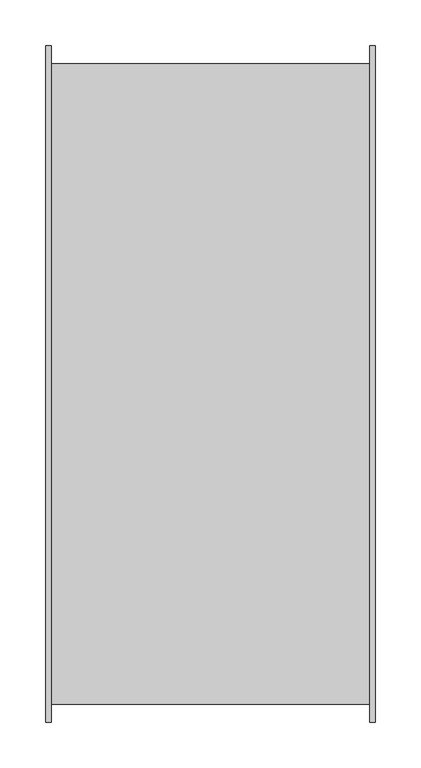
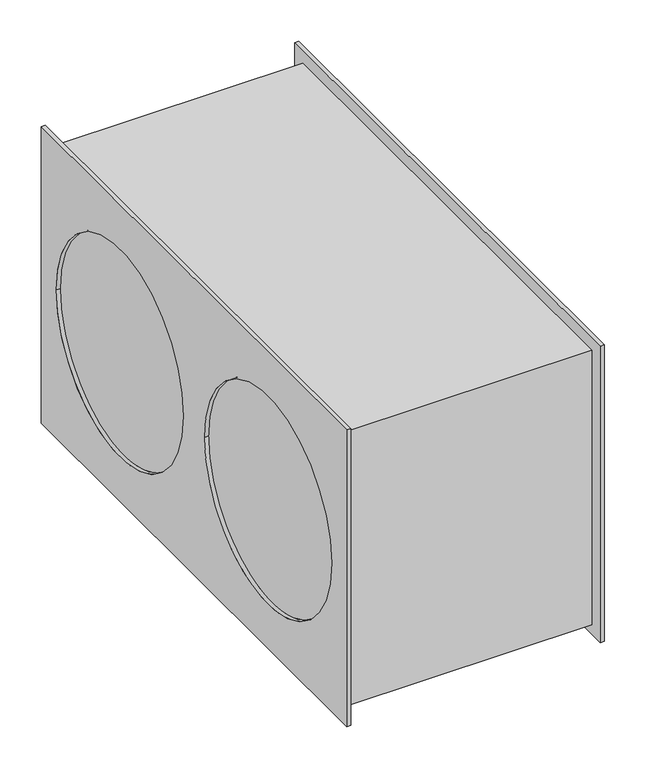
"""IFC4 building model written with IfcOpenShell, lengths in millimetres: unitary equipment geometry, VE-Wentylator-ParaForma-Harmann-JETTEC_REC_EC-Nawiewny : 070/40/5500EC."""

from ifc_helpers import new_model, si_unit, frame, origin, place, context, project, spatial, polyline, circle_curve, source, transform, mapped, element, save
from ifc_brep_helpers import plane_surface, revolved_surface, advanced_brep


def unitary_equipment_3b6452c3(model_context):
    return source(origin(), model_context, "Body", "AdvancedBrep", [
        advanced_brep(
        [(174.0, -369.3, -219.0), (174.0, -369.3, 219.0), (174.0, 369.3, 219.0), (174.0, 369.3, -219.0), (174.0, -349.8, 200.8), (174.0, -349.8, -204.2), (174.0, 349.8, -204.2), (174.0, 349.8, 200.8), (179.8, -369.3, -219.0), (179.8, 369.3, -219.0), (179.8, 369.3, 219.0), (179.8, -369.3, 219.0), (179.8, -332.8, 0.0), (179.8, -25.8, 0.0), (179.8, 25.8, 0.0), (179.8, 332.8, 0.0), (174.0, -25.8, 0.0), (174.0, -332.8, 0.0), (174.0, 332.8, 0.0), (174.0, 25.8, 0.0), (-174.0, -332.8, 0.0), (-174.0, -25.8, 0.0), (-174.0, 25.8, 0.0), (-174.0, 332.8, 0.0), (-174.0, -349.8, -204.2), (-174.0, -349.8, 200.8), (-174.0, 349.8, 200.8), (-174.0, 349.8, -204.2), (-179.8, -369.3, -219.0), (-179.8, -369.3, 219.0), (-179.8, 369.3, 219.0), (-179.8, 369.3, -219.0), (-179.8, -25.8, 0.0), (-179.8, -332.8, 0.0), (-179.8, 332.8, 0.0), (-179.8, 25.8, 0.0), (-174.0, -369.3, -219.0), (-174.0, 369.3, -219.0), (-174.0, 369.3, 219.0), (-174.0, -369.3, 219.0)],
        [
            (0, 1),
            (1, 2),
            (2, 3),
            (3, 0),
            (4, 5),
            (5, 6),
            (6, 7),
            (7, 4),
            (8, 9),
            (9, 10),
            (10, 11),
            (11, 8),
            (12, 13, circle_curve(frame((179.8, -179.3, 0.0), z_axis=(-1.0, 0.0, 0.0), x_axis=(0.0, 1.0, 0.0)), 153.5)),
            (13, 12, circle_curve(frame((179.8, -179.3, 0.0), z_axis=(-1.0, 0.0, 0.0), x_axis=(0.0, 1.0, 0.0)), 153.5)),
            (14, 15, circle_curve(frame((179.8, 179.3, 0.0), z_axis=(-1.0, 0.0, 0.0), x_axis=(0.0, 1.0, 0.0)), 153.5)),
            (15, 14, circle_curve(frame((179.8, 179.3, 0.0), z_axis=(-1.0, 0.0, 0.0), x_axis=(0.0, 1.0, 0.0)), 153.5)),
            (0, 8),
            (11, 1),
            (10, 2),
            (9, 3),
            (16, 13),
            (12, 17),
            (17, 16, circle_curve(frame((174.0, -179.3, 0.0), z_axis=(-1.0, 0.0, 0.0), x_axis=(0.0, 1.0, 0.0)), 153.5)),
            (16, 17, circle_curve(frame((174.0, -179.3, 0.0), z_axis=(-1.0, 0.0, 0.0), x_axis=(0.0, 1.0, 0.0)), 153.5)),
            (18, 15),
            (14, 19),
            (19, 18, circle_curve(frame((174.0, 179.3, 0.0), z_axis=(-1.0, 0.0, 0.0), x_axis=(0.0, 1.0, 0.0)), 153.5)),
            (18, 19, circle_curve(frame((174.0, 179.3, 0.0), z_axis=(-1.0, 0.0, 0.0), x_axis=(0.0, 1.0, 0.0)), 153.5)),
            (20, 21, circle_curve(frame((-174.0, -179.3, 0.0), z_axis=(-1.0, 0.0, 0.0), x_axis=(0.0, 1.0, 0.0)), 153.5)),
            (21, 20, circle_curve(frame((-174.0, -179.3, 0.0), z_axis=(-1.0, 0.0, 0.0), x_axis=(0.0, 1.0, 0.0)), 153.5)),
            (22, 23, circle_curve(frame((-174.0, 179.3, 0.0), z_axis=(-1.0, 0.0, 0.0), x_axis=(0.0, 1.0, 0.0)), 153.5)),
            (23, 22, circle_curve(frame((-174.0, 179.3, 0.0), z_axis=(-1.0, 0.0, 0.0), x_axis=(0.0, 1.0, 0.0)), 153.5)),
            (24, 5),
            (4, 25),
            (25, 24),
            (7, 26),
            (26, 25),
            (6, 27),
            (27, 26),
            (24, 27),
            (28, 29),
            (29, 30),
            (30, 31),
            (31, 28),
            (32, 33, circle_curve(frame((-179.8, -179.3, 0.0), z_axis=(1.0, 0.0, 0.0), x_axis=(0.0, 1.0, 0.0)), 153.5)),
            (33, 32, circle_curve(frame((-179.8, -179.3, 0.0), z_axis=(1.0, 0.0, 0.0), x_axis=(0.0, 1.0, 0.0)), 153.5)),
            (34, 35, circle_curve(frame((-179.8, 179.3, 0.0), z_axis=(1.0, 0.0, 0.0), x_axis=(0.0, 1.0, 0.0)), 153.5)),
            (35, 34, circle_curve(frame((-179.8, 179.3, 0.0), z_axis=(1.0, 0.0, 0.0), x_axis=(0.0, 1.0, 0.0)), 153.5)),
            (36, 37),
            (37, 38),
            (38, 39),
            (39, 36),
            (28, 36),
            (39, 29),
            (38, 30),
            (37, 31),
            (32, 21),
            (20, 33),
            (34, 23),
            (22, 35),
        ],
        [
            plane_surface(frame((174.0, 0.0, 0.0), z_axis=(-1.0, 0.0, 0.0), x_axis=(0.0, 0.0, 1.0))),
            plane_surface(frame((179.8, 0.0, 0.0), z_axis=(1.0, 0.0, 0.0), x_axis=(0.0, 0.0, 1.0))),
            plane_surface(frame((174.0, -369.3, -219.0), z_axis=(0.0, -1.0, 0.0), x_axis=(1.0, 0.0, 0.0))),
            plane_surface(frame((174.0, -369.3, 219.0), z_axis=(0.0, 0.0, 1.0), x_axis=(1.0, 0.0, 0.0))),
            plane_surface(frame((174.0, 369.3, 219.0), z_axis=(0.0, 1.0, 0.0), x_axis=(1.0, 0.0, 0.0))),
            plane_surface(frame((174.0, 369.3, -219.0), z_axis=(0.0, 0.0, -1.0), x_axis=(1.0, 0.0, 0.0))),
            revolved_surface(polyline([(174.0, -25.80000000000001, 0.0), (179.8, -25.80000000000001, 0.0)]), (174.0, -179.3, 0.0), (-1.0, 0.0, 0.0)),
            revolved_surface(polyline([(174.0, 332.8, 0.0), (179.8, 332.8, 0.0)]), (174.0, 179.3, 0.0), (-1.0, 0.0, 0.0)),
            plane_surface(frame((-174.0, 0.0, 0.0), z_axis=(-1.0, 0.0, 0.0), x_axis=(0.0, 0.0, 1.0))),
            plane_surface(frame((174.0, 0.0, 0.0), z_axis=(1.0, 0.0, 0.0), x_axis=(0.0, 0.0, 1.0))),
            plane_surface(frame((-174.0, -349.8, -204.2), z_axis=(0.0, -1.0, 0.0), x_axis=(1.0, 0.0, 0.0))),
            plane_surface(frame((-174.0, -349.8, 200.8), z_axis=(0.0, 0.0, 1.0), x_axis=(1.0, 0.0, 0.0))),
            plane_surface(frame((-174.0, 349.8, 200.8), z_axis=(0.0, 1.0, 0.0), x_axis=(1.0, 0.0, 0.0))),
            plane_surface(frame((-174.0, 349.8, -204.2), z_axis=(0.0, 0.0, -1.0), x_axis=(1.0, 0.0, 0.0))),
            plane_surface(frame((-179.8, 0.0, 0.0), z_axis=(-1.0, 0.0, 0.0), x_axis=(0.0, 0.0, 1.0))),
            plane_surface(frame((-174.0, 0.0, 0.0), z_axis=(1.0, 0.0, 0.0), x_axis=(0.0, 0.0, 1.0))),
            plane_surface(frame((-179.8, -369.3, -219.0), z_axis=(0.0, -1.0, 0.0), x_axis=(1.0, 0.0, 0.0))),
            plane_surface(frame((-179.8, -369.3, 219.0), z_axis=(0.0, 0.0, 1.0), x_axis=(1.0, 0.0, 0.0))),
            plane_surface(frame((-179.8, 369.3, 219.0), z_axis=(0.0, 1.0, 0.0), x_axis=(1.0, 0.0, 0.0))),
            plane_surface(frame((-179.8, 369.3, -219.0), z_axis=(0.0, 0.0, -1.0), x_axis=(1.0, 0.0, 0.0))),
            revolved_surface(polyline([(-179.8, -25.80000000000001, 0.0), (-174.0, -25.80000000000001, 0.0)]), (-179.8, -179.3, 0.0), (-1.0, 0.0, 0.0)),
            revolved_surface(polyline([(-179.8, 332.8, 0.0), (-174.0, 332.8, 0.0)]), (-179.8, 179.3, 0.0), (-1.0, 0.0, 0.0)),
        ],
        [
            (0, [[1, 2, 3, 4], [5, 6, 7, 8]]),
            (1, [[9, 10, 11, 12], [13, 14], [15, 16]]),
            (2, [[-1, 17, -12, 18]]),
            (3, [[-2, -18, -11, 19]]),
            (4, [[-3, -19, -10, 20]]),
            (5, [[-4, -20, -9, -17]]),
            (6, [[21, -13, 22, 23]]),
            (6, [[-21, 24, -22, -14]]),
            (7, [[25, -15, 26, 27]]),
            (7, [[-25, 28, -26, -16]]),
            (8, [[29, 30]]),
            (8, [[31, 32]]),
            (9, [[-23, -24]]),
            (9, [[-27, -28]]),
            (10, [[33, -5, 34, 35]]),
            (11, [[-34, -8, 36, 37]]),
            (12, [[-36, -7, 38, 39]]),
            (13, [[-33, 40, -38, -6]]),
            (14, [[41, 42, 43, 44], [45, 46], [47, 48]]),
            (15, [[49, 50, 51, 52], [-35, -37, -39, -40]]),
            (16, [[-41, 53, -52, 54]]),
            (17, [[-42, -54, -51, 55]]),
            (18, [[-43, -55, -50, 56]]),
            (19, [[-44, -56, -49, -53]]),
            (20, [[57, -29, 58, -45]]),
            (20, [[-57, -46, -58, -30]]),
            (21, [[59, -31, 60, -47]]),
            (21, [[-59, -48, -60, -32]]),
        ],
    ),
    ])


if __name__ == "__main__":
    model = new_model("IFC4")
    model_context = context("Model", 3, world=origin())
    ifc_project = project(units=[si_unit("LENGTHUNIT", "METRE", prefix="MILLI")], contexts=[model_context])
    site = spatial("IfcSite", under=ifc_project)
    building = spatial("IfcBuilding", under=site)
    placement = place(None, origin())
    unitary_equipment_shape = unitary_equipment_3b6452c3(model_context)
    element("IfcUnitaryEquipment", 1, ObjectType="VE-Wentylator-ParaForma-Harmann-JETTEC_REC_EC-Nawiewny : 070/40/5500EC", at=placement, inside=building, context=model_context, shape_type="MappedRepresentation", body=[
        mapped(unitary_equipment_shape, transform((0.0, 0.0, 0.0), x_axis=(1.0, 0.0, 0.0), y_axis=(0.0, 1.0, 0.0), z_axis=(0.0, 0.0, 1.0))),
    ])
    save(model, "model.ifc")
